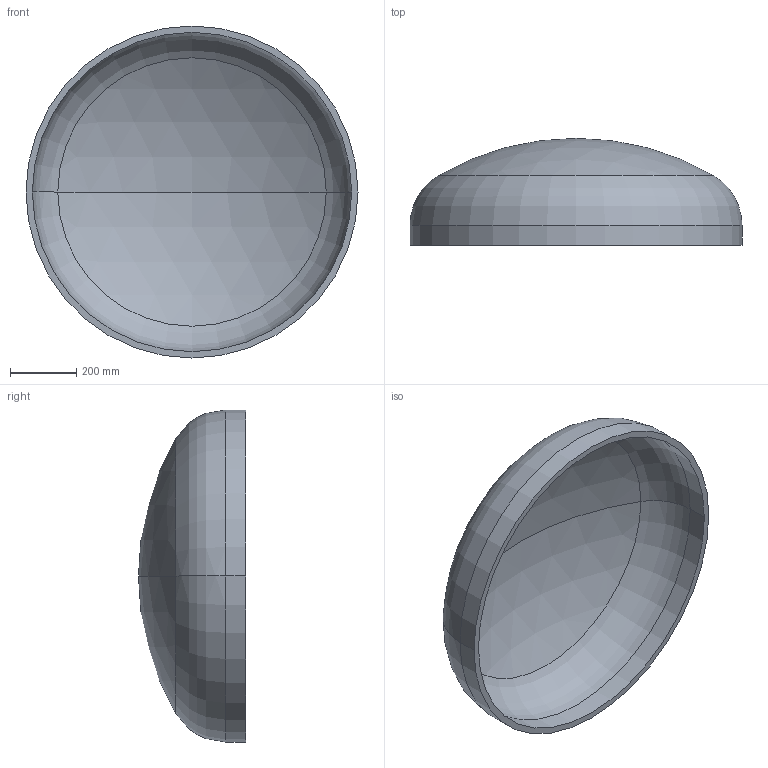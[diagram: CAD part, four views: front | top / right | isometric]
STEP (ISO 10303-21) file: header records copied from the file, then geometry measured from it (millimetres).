
FILE_DESCRIPTION (( 'STEP AP203' ), '1' );
FILE_NAME ('DIN 28013 Korbbogenform_-_Boden DIN 28013 - 1000 x 60 - I - s=19.step', '2016-07-01T08:44:04', ( '' ), ( '' ), 'SwSTEP 2.0', 'SolidWorks 2013', '' );
FILE_SCHEMA (( 'CONFIG_CONTROL_DESIGN' ));
Length unit declared in the file: millimetre
Products named in the file (1): DIN 28013 Korbbogenform_-_Boden DIN 28013 - 1000 x 60 - I - s=19
Bounding box: 1000 x 322.45 x 1000 mm (x, y, z)
Volume: 23695961.9 mm3; surface area: 2553623.2 mm2
Topology: 1 solids, 1 shells, 13 faces, 24 edges, 14 vertices
Faces by surface type: torus 4, cylinder 4, sphere 4, plane 1
Entity records: 407 total; most frequent: DIRECTION 72, CARTESIAN_POINT 52, ORIENTED_EDGE 48, AXIS2_PLACEMENT_3D 34, EDGE_CURVE 24, CIRCLE 20, VERTEX_POINT 14, EDGE_LOOP 14
